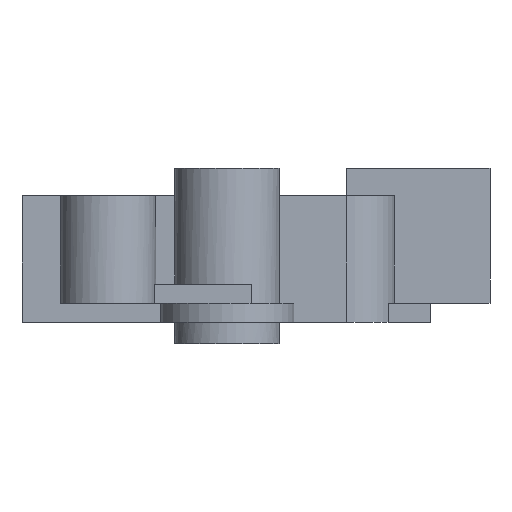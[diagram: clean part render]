
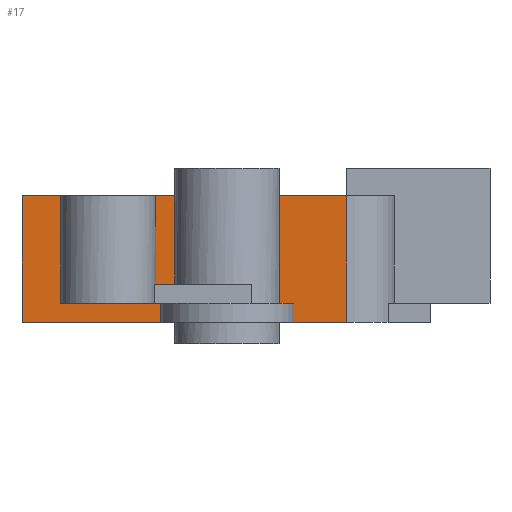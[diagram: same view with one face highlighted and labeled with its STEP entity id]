
A CAD part, left-side view. The second image highlights one B-rep face of the part: STEP entity #17.
In plain terms, the highlighted planar face has unit normal (-1, 0, 0).
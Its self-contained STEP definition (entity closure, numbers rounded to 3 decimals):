
#17 = ADVANCED_FACE('',(#18),#32,.F.);
#18 = FACE_BOUND('',#19,.F.);
#19 = EDGE_LOOP('',(#20,#55,#83,#109,#135,#161,#184,#210));
#20 = ORIENTED_EDGE('',*,*,#21,.F.);
#21 = EDGE_CURVE('',#22,#24,#26,.T.);
#22 = VERTEX_POINT('',#23);
#23 = CARTESIAN_POINT('',(-9.,-55.,2.55));
#24 = VERTEX_POINT('',#25);
#25 = CARTESIAN_POINT('',(-9.,-55.,7.85));
#26 = SURFACE_CURVE('',#27,(#31,#43),.PCURVE_S1.);
#27 = LINE('',#28,#29);
#28 = CARTESIAN_POINT('',(-9.,-55.,2.55));
#29 = VECTOR('',#30,1.);
#30 = DIRECTION('',(0.,0.,1.));
#31 = PCURVE('',#32,#37);
#32 = PLANE('',#33);
#33 = AXIS2_PLACEMENT_3D('',#34,#35,#36);
#34 = CARTESIAN_POINT('',(-9.,-57.,2.55));
#35 = DIRECTION('',(1.,0.,0.));
#36 = DIRECTION('',(0.,0.,1.));
#37 = DEFINITIONAL_REPRESENTATION('',(#38),#42);
#38 = LINE('',#39,#40);
#39 = CARTESIAN_POINT('',(0.,-2.));
#40 = VECTOR('',#41,1.);
#41 = DIRECTION('',(1.,0.));
#42 = ( GEOMETRIC_REPRESENTATION_CONTEXT(2) 
PARAMETRIC_REPRESENTATION_CONTEXT() REPRESENTATION_CONTEXT('2D SPACE',''
  ) );
#43 = PCURVE('',#44,#49);
#44 = CYLINDRICAL_SURFACE('',#45,2.);
#45 = AXIS2_PLACEMENT_3D('',#46,#47,#48);
#46 = CARTESIAN_POINT('',(-7.,-55.,2.55));
#47 = DIRECTION('',(0.,0.,1.));
#48 = DIRECTION('',(-1.,-0.,0.));
#49 = DEFINITIONAL_REPRESENTATION('',(#50),#54);
#50 = LINE('',#51,#52);
#51 = CARTESIAN_POINT('',(0.,0.));
#52 = VECTOR('',#53,1.);
#53 = DIRECTION('',(0.,1.));
#54 = ( GEOMETRIC_REPRESENTATION_CONTEXT(2) 
PARAMETRIC_REPRESENTATION_CONTEXT() REPRESENTATION_CONTEXT('2D SPACE',''
  ) );
#55 = ORIENTED_EDGE('',*,*,#56,.T.);
#56 = EDGE_CURVE('',#22,#57,#59,.T.);
#57 = VERTEX_POINT('',#58);
#58 = CARTESIAN_POINT('',(-9.,-52.,2.55));
#59 = SURFACE_CURVE('',#60,(#64,#71),.PCURVE_S1.);
#60 = LINE('',#61,#62);
#61 = CARTESIAN_POINT('',(-9.,-57.,2.55));
#62 = VECTOR('',#63,1.);
#63 = DIRECTION('',(0.,1.,0.));
#64 = PCURVE('',#32,#65);
#65 = DEFINITIONAL_REPRESENTATION('',(#66),#70);
#66 = LINE('',#67,#68);
#67 = CARTESIAN_POINT('',(0.,0.));
#68 = VECTOR('',#69,1.);
#69 = DIRECTION('',(0.,-1.));
#70 = ( GEOMETRIC_REPRESENTATION_CONTEXT(2) 
PARAMETRIC_REPRESENTATION_CONTEXT() REPRESENTATION_CONTEXT('2D SPACE',''
  ) );
#71 = PCURVE('',#72,#77);
#72 = PLANE('',#73);
#73 = AXIS2_PLACEMENT_3D('',#74,#75,#76);
#74 = CARTESIAN_POINT('',(-9.,-57.,2.55));
#75 = DIRECTION('',(0.,0.,1.));
#76 = DIRECTION('',(1.,0.,0.));
#77 = DEFINITIONAL_REPRESENTATION('',(#78),#82);
#78 = LINE('',#79,#80);
#79 = CARTESIAN_POINT('',(0.,0.));
#80 = VECTOR('',#81,1.);
#81 = DIRECTION('',(0.,1.));
#82 = ( GEOMETRIC_REPRESENTATION_CONTEXT(2) 
PARAMETRIC_REPRESENTATION_CONTEXT() REPRESENTATION_CONTEXT('2D SPACE',''
  ) );
#83 = ORIENTED_EDGE('',*,*,#84,.T.);
#84 = EDGE_CURVE('',#57,#85,#87,.T.);
#85 = VERTEX_POINT('',#86);
#86 = CARTESIAN_POINT('',(-9.,-52.,3.35));
#87 = SURFACE_CURVE('',#88,(#92,#98),.PCURVE_S1.);
#88 = LINE('',#89,#90);
#89 = CARTESIAN_POINT('',(-9.,-52.,2.55));
#90 = VECTOR('',#91,1.);
#91 = DIRECTION('',(0.,0.,1.));
#92 = PCURVE('',#32,#93);
#93 = DEFINITIONAL_REPRESENTATION('',(#94),#97);
#94 = B_SPLINE_CURVE_WITH_KNOTS('',1,(#95,#96),.UNSPECIFIED.,.F.,.F.,(2,
    2),(0.,0.8),.PIECEWISE_BEZIER_KNOTS.);
#95 = CARTESIAN_POINT('',(0.,-5.));
#96 = CARTESIAN_POINT('',(0.8,-5.));
#97 = ( GEOMETRIC_REPRESENTATION_CONTEXT(2) 
PARAMETRIC_REPRESENTATION_CONTEXT() REPRESENTATION_CONTEXT('2D SPACE',''
  ) );
#98 = PCURVE('',#99,#104);
#99 = PLANE('',#100);
#100 = AXIS2_PLACEMENT_3D('',#101,#102,#103);
#101 = CARTESIAN_POINT('',(-21.5,-52.,2.55));
#102 = DIRECTION('',(0.,1.,0.));
#103 = DIRECTION('',(0.,0.,1.));
#104 = DEFINITIONAL_REPRESENTATION('',(#105),#108);
#105 = B_SPLINE_CURVE_WITH_KNOTS('',1,(#106,#107),.UNSPECIFIED.,.F.,.F.,
  (2,2),(0.,0.8),.PIECEWISE_BEZIER_KNOTS.);
#106 = CARTESIAN_POINT('',(0.,12.5));
#107 = CARTESIAN_POINT('',(0.8,12.5));
#108 = ( GEOMETRIC_REPRESENTATION_CONTEXT(2) 
PARAMETRIC_REPRESENTATION_CONTEXT() REPRESENTATION_CONTEXT('2D SPACE',''
  ) );
#109 = ORIENTED_EDGE('',*,*,#110,.F.);
#110 = EDGE_CURVE('',#111,#85,#113,.T.);
#111 = VERTEX_POINT('',#112);
#112 = CARTESIAN_POINT('',(-9.,-48.,3.35));
#113 = SURFACE_CURVE('',#114,(#118,#124),.PCURVE_S1.);
#114 = LINE('',#115,#116);
#115 = CARTESIAN_POINT('',(-9.,-54.5,3.35));
#116 = VECTOR('',#117,1.);
#117 = DIRECTION('',(0.,-1.,0.));
#118 = PCURVE('',#32,#119);
#119 = DEFINITIONAL_REPRESENTATION('',(#120),#123);
#120 = B_SPLINE_CURVE_WITH_KNOTS('',1,(#121,#122),.UNSPECIFIED.,.F.,.F.,
  (2,2),(-6.5,-2.5),.PIECEWISE_BEZIER_KNOTS.);
#121 = CARTESIAN_POINT('',(0.8,-9.));
#122 = CARTESIAN_POINT('',(0.8,-5.));
#123 = ( GEOMETRIC_REPRESENTATION_CONTEXT(2) 
PARAMETRIC_REPRESENTATION_CONTEXT() REPRESENTATION_CONTEXT('2D SPACE',''
  ) );
#124 = PCURVE('',#125,#130);
#125 = PLANE('',#126);
#126 = AXIS2_PLACEMENT_3D('',#127,#128,#129);
#127 = CARTESIAN_POINT('',(-21.5,-52.,3.35));
#128 = DIRECTION('',(0.,0.,1.));
#129 = DIRECTION('',(1.,0.,0.));
#130 = DEFINITIONAL_REPRESENTATION('',(#131),#134);
#131 = B_SPLINE_CURVE_WITH_KNOTS('',1,(#132,#133),.UNSPECIFIED.,.F.,.F.,
  (2,2),(-6.5,-2.5),.PIECEWISE_BEZIER_KNOTS.);
#132 = CARTESIAN_POINT('',(12.5,4.));
#133 = CARTESIAN_POINT('',(12.5,0.));
#134 = ( GEOMETRIC_REPRESENTATION_CONTEXT(2) 
PARAMETRIC_REPRESENTATION_CONTEXT() REPRESENTATION_CONTEXT('2D SPACE',''
  ) );
#135 = ORIENTED_EDGE('',*,*,#136,.F.);
#136 = EDGE_CURVE('',#137,#111,#139,.T.);
#137 = VERTEX_POINT('',#138);
#138 = CARTESIAN_POINT('',(-9.,-48.,2.55));
#139 = SURFACE_CURVE('',#140,(#144,#150),.PCURVE_S1.);
#140 = LINE('',#141,#142);
#141 = CARTESIAN_POINT('',(-9.,-48.,2.55));
#142 = VECTOR('',#143,1.);
#143 = DIRECTION('',(0.,0.,1.));
#144 = PCURVE('',#32,#145);
#145 = DEFINITIONAL_REPRESENTATION('',(#146),#149);
#146 = B_SPLINE_CURVE_WITH_KNOTS('',1,(#147,#148),.UNSPECIFIED.,.F.,.F.,
  (2,2),(0.,0.8),.PIECEWISE_BEZIER_KNOTS.);
#147 = CARTESIAN_POINT('',(0.,-9.));
#148 = CARTESIAN_POINT('',(0.8,-9.));
#149 = ( GEOMETRIC_REPRESENTATION_CONTEXT(2) 
PARAMETRIC_REPRESENTATION_CONTEXT() REPRESENTATION_CONTEXT('2D SPACE',''
  ) );
#150 = PCURVE('',#151,#156);
#151 = PLANE('',#152);
#152 = AXIS2_PLACEMENT_3D('',#153,#154,#155);
#153 = CARTESIAN_POINT('',(-21.5,-48.,2.55));
#154 = DIRECTION('',(0.,1.,0.));
#155 = DIRECTION('',(0.,0.,1.));
#156 = DEFINITIONAL_REPRESENTATION('',(#157),#160);
#157 = B_SPLINE_CURVE_WITH_KNOTS('',1,(#158,#159),.UNSPECIFIED.,.F.,.F.,
  (2,2),(0.,0.8),.PIECEWISE_BEZIER_KNOTS.);
#158 = CARTESIAN_POINT('',(0.,12.5));
#159 = CARTESIAN_POINT('',(0.8,12.5));
#160 = ( GEOMETRIC_REPRESENTATION_CONTEXT(2) 
PARAMETRIC_REPRESENTATION_CONTEXT() REPRESENTATION_CONTEXT('2D SPACE',''
  ) );
#161 = ORIENTED_EDGE('',*,*,#162,.T.);
#162 = EDGE_CURVE('',#137,#163,#165,.T.);
#163 = VERTEX_POINT('',#164);
#164 = CARTESIAN_POINT('',(-9.,-41.4,2.55));
#165 = SURFACE_CURVE('',#166,(#170,#177),.PCURVE_S1.);
#166 = LINE('',#167,#168);
#167 = CARTESIAN_POINT('',(-9.,-57.,2.55));
#168 = VECTOR('',#169,1.);
#169 = DIRECTION('',(0.,1.,0.));
#170 = PCURVE('',#32,#171);
#171 = DEFINITIONAL_REPRESENTATION('',(#172),#176);
#172 = LINE('',#173,#174);
#173 = CARTESIAN_POINT('',(0.,0.));
#174 = VECTOR('',#175,1.);
#175 = DIRECTION('',(0.,-1.));
#176 = ( GEOMETRIC_REPRESENTATION_CONTEXT(2) 
PARAMETRIC_REPRESENTATION_CONTEXT() REPRESENTATION_CONTEXT('2D SPACE',''
  ) );
#177 = PCURVE('',#72,#178);
#178 = DEFINITIONAL_REPRESENTATION('',(#179),#183);
#179 = LINE('',#180,#181);
#180 = CARTESIAN_POINT('',(0.,0.));
#181 = VECTOR('',#182,1.);
#182 = DIRECTION('',(0.,1.));
#183 = ( GEOMETRIC_REPRESENTATION_CONTEXT(2) 
PARAMETRIC_REPRESENTATION_CONTEXT() REPRESENTATION_CONTEXT('2D SPACE',''
  ) );
#184 = ORIENTED_EDGE('',*,*,#185,.T.);
#185 = EDGE_CURVE('',#163,#186,#188,.T.);
#186 = VERTEX_POINT('',#187);
#187 = CARTESIAN_POINT('',(-9.,-41.4,7.85));
#188 = SURFACE_CURVE('',#189,(#193,#199),.PCURVE_S1.);
#189 = LINE('',#190,#191);
#190 = CARTESIAN_POINT('',(-9.,-41.4,1.775));
#191 = VECTOR('',#192,1.);
#192 = DIRECTION('',(0.,0.,1.));
#193 = PCURVE('',#32,#194);
#194 = DEFINITIONAL_REPRESENTATION('',(#195),#198);
#195 = B_SPLINE_CURVE_WITH_KNOTS('',1,(#196,#197),.UNSPECIFIED.,.F.,.F.,
  (2,2),(0.775,6.075),.PIECEWISE_BEZIER_KNOTS.);
#196 = CARTESIAN_POINT('',(0.,-15.6));
#197 = CARTESIAN_POINT('',(5.3,-15.6));
#198 = ( GEOMETRIC_REPRESENTATION_CONTEXT(2) 
PARAMETRIC_REPRESENTATION_CONTEXT() REPRESENTATION_CONTEXT('2D SPACE',''
  ) );
#199 = PCURVE('',#200,#205);
#200 = PLANE('',#201);
#201 = AXIS2_PLACEMENT_3D('',#202,#203,#204);
#202 = CARTESIAN_POINT('',(-12.5,-41.4,1.));
#203 = DIRECTION('',(0.,1.,0.));
#204 = DIRECTION('',(0.,0.,1.));
#205 = DEFINITIONAL_REPRESENTATION('',(#206),#209);
#206 = B_SPLINE_CURVE_WITH_KNOTS('',1,(#207,#208),.UNSPECIFIED.,.F.,.F.,
  (2,2),(0.775,6.075),.PIECEWISE_BEZIER_KNOTS.);
#207 = CARTESIAN_POINT('',(1.55,3.5));
#208 = CARTESIAN_POINT('',(6.85,3.5));
#209 = ( GEOMETRIC_REPRESENTATION_CONTEXT(2) 
PARAMETRIC_REPRESENTATION_CONTEXT() REPRESENTATION_CONTEXT('2D SPACE',''
  ) );
#210 = ORIENTED_EDGE('',*,*,#211,.F.);
#211 = EDGE_CURVE('',#24,#186,#212,.T.);
#212 = SURFACE_CURVE('',#213,(#217,#224),.PCURVE_S1.);
#213 = LINE('',#214,#215);
#214 = CARTESIAN_POINT('',(-9.,-57.,7.85));
#215 = VECTOR('',#216,1.);
#216 = DIRECTION('',(0.,1.,0.));
#217 = PCURVE('',#32,#218);
#218 = DEFINITIONAL_REPRESENTATION('',(#219),#223);
#219 = LINE('',#220,#221);
#220 = CARTESIAN_POINT('',(5.3,0.));
#221 = VECTOR('',#222,1.);
#222 = DIRECTION('',(0.,-1.));
#223 = ( GEOMETRIC_REPRESENTATION_CONTEXT(2) 
PARAMETRIC_REPRESENTATION_CONTEXT() REPRESENTATION_CONTEXT('2D SPACE',''
  ) );
#224 = PCURVE('',#225,#230);
#225 = PLANE('',#226);
#226 = AXIS2_PLACEMENT_3D('',#227,#228,#229);
#227 = CARTESIAN_POINT('',(-9.,-57.,7.85));
#228 = DIRECTION('',(0.,0.,1.));
#229 = DIRECTION('',(1.,0.,0.));
#230 = DEFINITIONAL_REPRESENTATION('',(#231),#235);
#231 = LINE('',#232,#233);
#232 = CARTESIAN_POINT('',(0.,0.));
#233 = VECTOR('',#234,1.);
#234 = DIRECTION('',(0.,1.));
#235 = ( GEOMETRIC_REPRESENTATION_CONTEXT(2) 
PARAMETRIC_REPRESENTATION_CONTEXT() REPRESENTATION_CONTEXT('2D SPACE',''
  ) );
